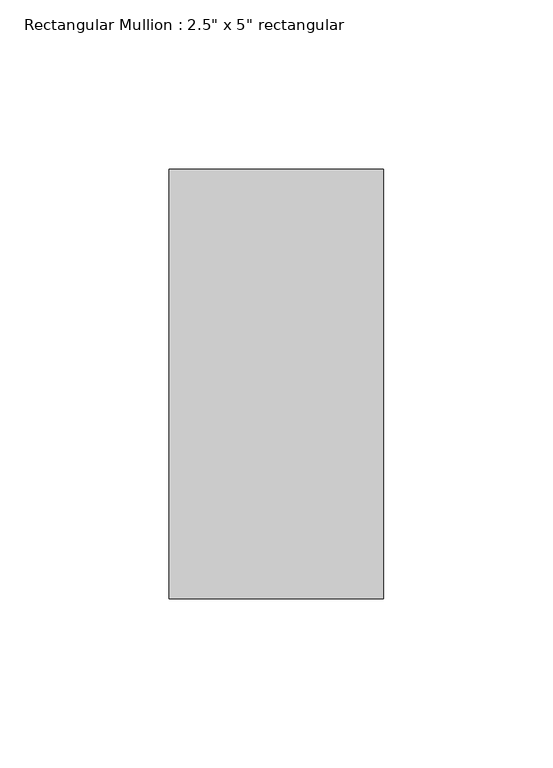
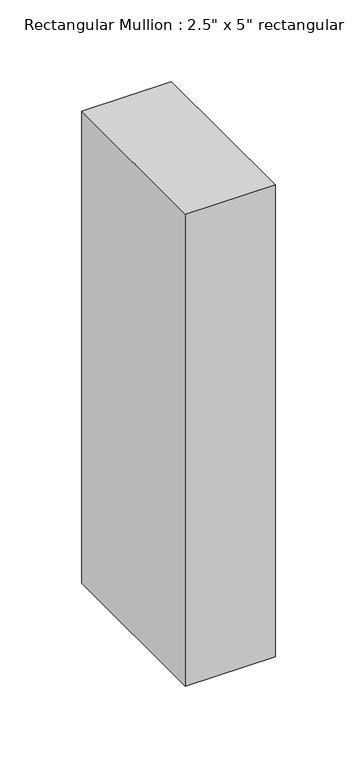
"""IFC4 building model written with IfcOpenShell, lengths in millimetres: member geometry."""

from ifc_helpers import new_model, si_unit, frame, origin, place, context, project, spatial, polyline, outline, extrude, source, transform, mapped, element, save


def member_86ee58f4(model_context):
    return source(origin(), model_context, "Body", "SweptSolid", [
        extrude(outline(polyline([(31.75, 63.5), (31.75, -63.5), (-31.75, -63.5), (-31.75, 63.5), (31.75, 63.5)])), frame((0.0, 0.0, -352.8785714), z_axis=(0.0, 0.0, 1.0), x_axis=(1.0, 0.0, 0.0)), (0.0, 0.0, 1.0), 352.8785714),
    ])


if __name__ == "__main__":
    model = new_model("IFC4")
    model_context = context("Model", 3, world=origin())
    ifc_project = project(units=[si_unit("LENGTHUNIT", "METRE", prefix="MILLI")], contexts=[model_context])
    site = spatial("IfcSite", under=ifc_project)
    building = spatial("IfcBuilding", under=site)
    placement = place(None, origin())
    member_shape = member_86ee58f4(model_context)
    element("IfcMember", 1, ObjectType="Rectangular Mullion : 2.5\" x 5\" rectangular", at=placement, inside=building, context=model_context, shape_type="MappedRepresentation", body=[
        mapped(member_shape, transform((0.0, 0.0, 0.0), x_axis=(1.0, 0.0, 0.0), y_axis=(0.0, 1.0, 0.0), z_axis=(0.0, 0.0, 1.0))),
    ])
    save(model, "model.ifc")
